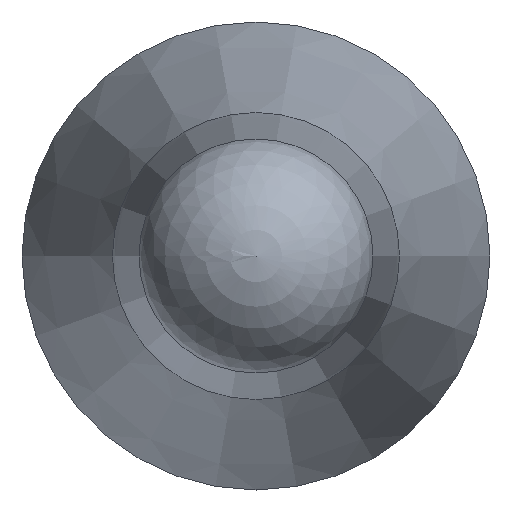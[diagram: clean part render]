
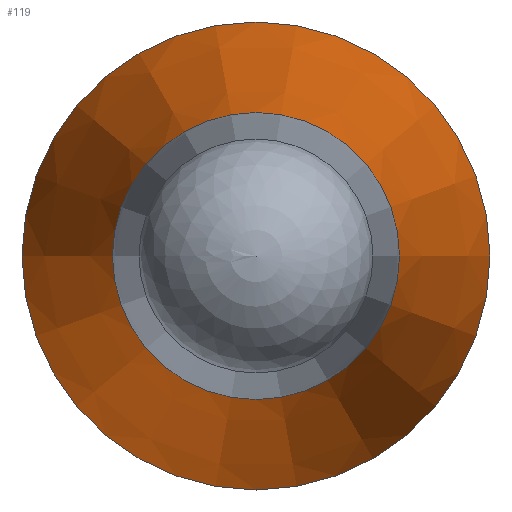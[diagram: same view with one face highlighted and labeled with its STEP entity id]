
A CAD part, left-side view. The second image highlights one B-rep face of the part: STEP entity #119.
In plain terms, the highlighted conical face has half-angle 12 degrees and reference radius 4 mm.
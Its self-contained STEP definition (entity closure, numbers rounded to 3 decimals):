
#97=CONICAL_SURFACE('',#194,4.,12.);
#106=FACE_BOUND('',#134,.T.);
#107=FACE_BOUND('',#135,.T.);
#119=ADVANCED_FACE('',(#106,#107),#97,.T.);
#134=EDGE_LOOP('',(#150));
#135=EDGE_LOOP('',(#151));
#150=ORIENTED_EDGE('',*,*,#172,.F.);
#151=ORIENTED_EDGE('',*,*,#173,.T.);
#164=VERTEX_POINT('',#249);
#165=VERTEX_POINT('',#252);
#172=EDGE_CURVE('',#164,#164,#180,.T.);
#173=EDGE_CURVE('',#165,#165,#181,.T.);
#180=CIRCLE('',#191,2.453);
#181=CIRCLE('',#193,4.);
#191=AXIS2_PLACEMENT_3D('',#248,#215,#216);
#193=AXIS2_PLACEMENT_3D('',#251,#219,#220);
#194=AXIS2_PLACEMENT_3D('',#253,#221,#222);
#215=DIRECTION('',(-1.,0.,0.));
#216=DIRECTION('',(0.,-1.,0.));
#219=DIRECTION('',(-1.,0.,0.));
#220=DIRECTION('',(0.,-1.,0.));
#221=DIRECTION('',(1.,0.,0.));
#222=DIRECTION('',(0.,1.,0.));
#248=CARTESIAN_POINT('',(7933.912,6103.288,0.));
#249=CARTESIAN_POINT('',(7933.912,6100.835,0.));
#251=CARTESIAN_POINT('',(7941.191,6103.288,0.));
#252=CARTESIAN_POINT('',(7941.191,6099.288,0.));
#253=CARTESIAN_POINT('',(7941.191,6103.288,0.));
